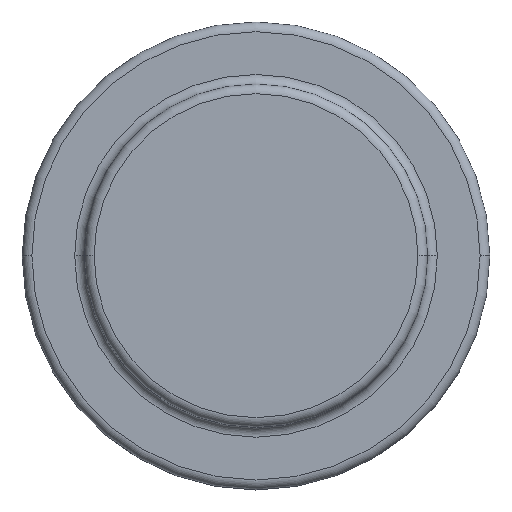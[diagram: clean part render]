
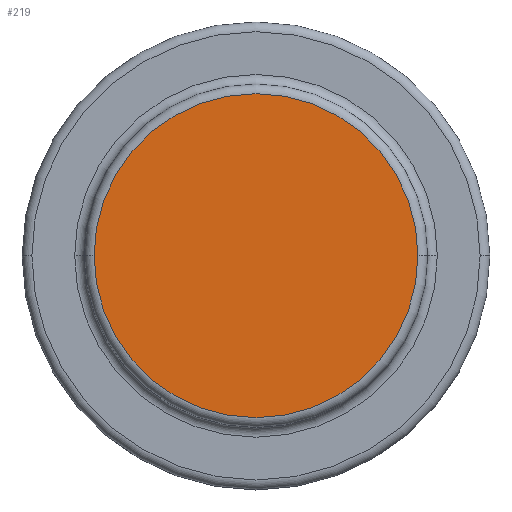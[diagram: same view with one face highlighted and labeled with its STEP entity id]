
A CAD part, top view. The second image highlights one B-rep face of the part: STEP entity #219.
In plain terms, the highlighted planar face has unit normal (0, 0, 1).
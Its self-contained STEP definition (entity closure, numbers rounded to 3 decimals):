
#1 = ORIENTED_EDGE ( 'NONE', *, *, #583, .T. ) ;
#15 = VERTEX_POINT ( 'NONE', #537 ) ;
#32 = DIRECTION ( 'NONE',  ( 1., 0., 0. ) ) ;
#57 = CIRCLE ( 'NONE', #843, 50.927 ) ;
#213 = PLANE ( 'NONE',  #432 ) ;
#218 = CARTESIAN_POINT ( 'NONE',  ( -50.927, 0., 55.753 ) ) ;
#219 = ADVANCED_FACE ( 'NONE', ( #894 ), #213, .F. ) ;
#308 = CARTESIAN_POINT ( 'NONE',  ( 0., 0., 55.753 ) ) ;
#411 = DIRECTION ( 'NONE',  ( 0., 0., 1. ) ) ;
#432 = AXIS2_PLACEMENT_3D ( 'NONE', #656, #737, #506 ) ;
#488 = CIRCLE ( 'NONE', #674, 50.927 ) ;
#506 = DIRECTION ( 'NONE',  ( -1., 0., 0. ) ) ;
#525 = EDGE_LOOP ( 'NONE', ( #837, #1 ) ) ;
#537 = CARTESIAN_POINT ( 'NONE',  ( 50.927, 0., 55.753 ) ) ;
#583 = EDGE_CURVE ( 'NONE', #619, #15, #57, .T. ) ;
#619 = VERTEX_POINT ( 'NONE', #218 ) ;
#620 = DIRECTION ( 'NONE',  ( 0., 0., 1. ) ) ;
#656 = CARTESIAN_POINT ( 'NONE',  ( 0., 50.927, 55.753 ) ) ;
#674 = AXIS2_PLACEMENT_3D ( 'NONE', #308, #620, #32 ) ;
#731 = DIRECTION ( 'NONE',  ( 1., 0., 0. ) ) ;
#737 = DIRECTION ( 'NONE',  ( 0., 0., -1. ) ) ;
#785 = EDGE_CURVE ( 'NONE', #15, #619, #488, .T. ) ;
#837 = ORIENTED_EDGE ( 'NONE', *, *, #785, .T. ) ;
#843 = AXIS2_PLACEMENT_3D ( 'NONE', #867, #411, #731 ) ;
#867 = CARTESIAN_POINT ( 'NONE',  ( 0., 0., 55.753 ) ) ;
#894 = FACE_OUTER_BOUND ( 'NONE', #525, .T. ) ;
